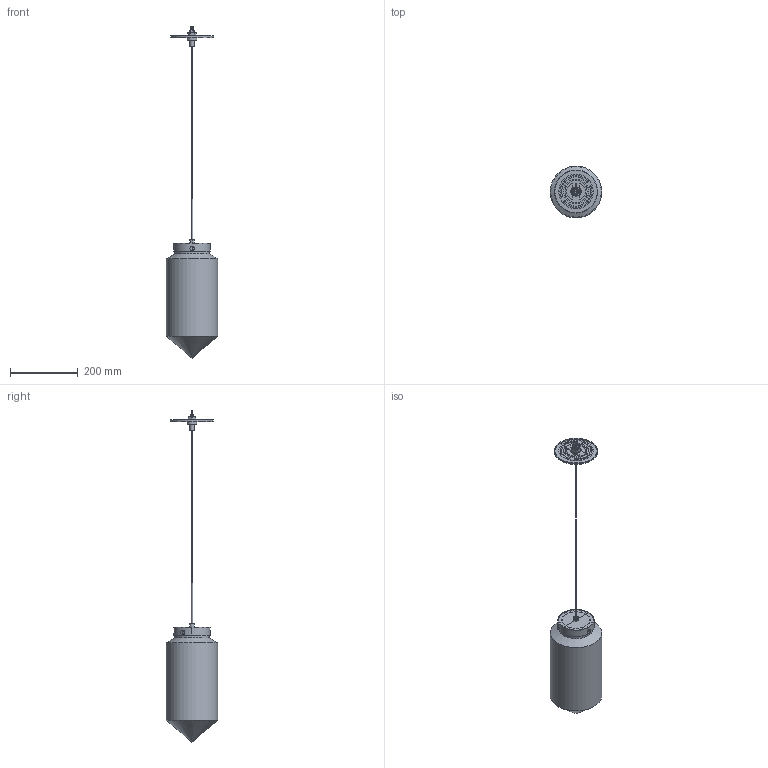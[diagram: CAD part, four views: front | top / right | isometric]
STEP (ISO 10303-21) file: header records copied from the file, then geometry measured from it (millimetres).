
FILE_DESCRIPTION(/* description */ (''),/* implementation_level */ '2;1');
FILE_NAME(/* name */ 'C:/Users/zach/Niche/Product Development - Documents/CAD Models/Pendants/Constellation Collection/Dart Series/Dart Petite/Glass - Low Voltage Hardware/Niche - Dart Petite Pendant.step',/* time_stamp */ '2022-09-02T10:41:53-04:00',/* author */ (''),/* organization */ (''),/* preprocessor_version */ 'ST-DEVELOPER v19',/* originating_system */ 'Autodesk Translation Framework v11.7.0.108',/* authorisation */ '');
FILE_SCHEMA (('AUTOMOTIVE_DESIGN { 1 0 10303 214 3 1 1 }'));
Length unit declared in the file: inch
Products named in the file (2): Dart Petite; Dart Petite_1
Assembly tree (1 placements, depth 2):
  Dart Petite
    Dart Petite_1
Bounding box: 152.3 x 152.14 x 980.31 mm (x, y, z)
Volume: 644226.6 mm3; surface area: 431164.6 mm2
Topology: 29 solids, 29 shells, 712 faces, 1760 edges, 1160 vertices
Faces by surface type: plane 411, cylinder 198, bspline 65, cone 37, torus 1
Full cylindrical faces by diameter (mm): 0.571 x2, 1.016 x2, 1.778 x2, 2.032 x1, 2.54 x4, 2.794 x1, 3.302 x7, 3.556 x4, 3.81 x5, 4.064 x3, 4.826 x1, 5.08 x2, 5.461 x1, 6.096 x3, 7.6 x3, 8.128 x1, 8.89 x2, 9.312 x4, 10.16 x2, 12.7 x4, 13.97 x1, 18.923 x1, 19.558 x1, 22.86 x2, 24.13 x1, 26.924 x1, 28.194 x2, 82.55 x1, 93.98 x1, 101.6 x3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
Entity records: 26101 total; most frequent: CARTESIAN_POINT 9377, ORIENTED_EDGE 3512, DIRECTION 3172, EDGE_CURVE 1756, VERTEX_POINT 1160, AXIS2_PLACEMENT_3D 1062, LINE 1048, VECTOR 1048
